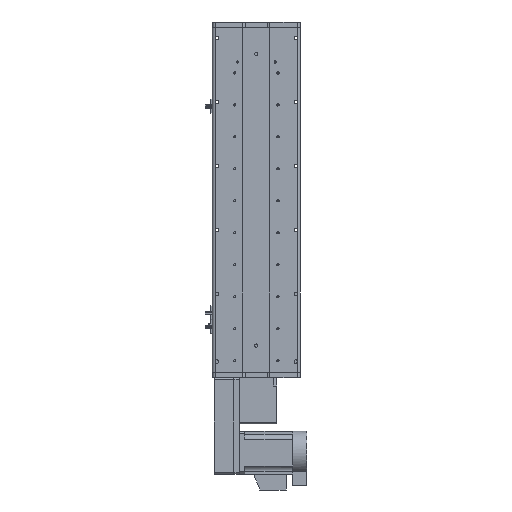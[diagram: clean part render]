
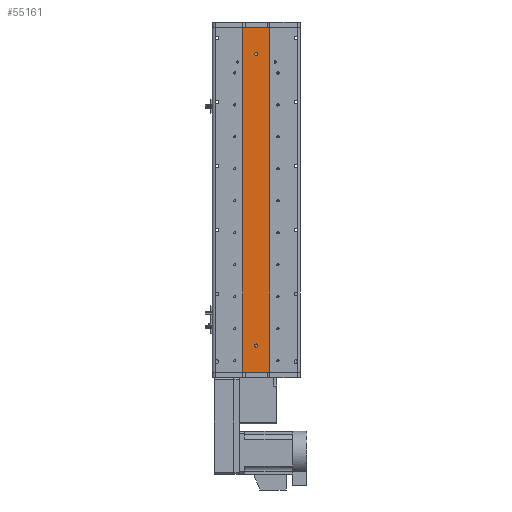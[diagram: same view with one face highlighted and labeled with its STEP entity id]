
A CAD part, front view. The second image highlights one B-rep face of the part: STEP entity #55161.
In plain terms, the highlighted planar face has unit normal (0, -1, 0).
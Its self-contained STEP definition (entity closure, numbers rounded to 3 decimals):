
#2698 = CARTESIAN_POINT ( 'NONE',  ( -25., 1., 323.5 ) ) ;
#2927 = CARTESIAN_POINT ( 'NONE',  ( 25., 1., 323.5 ) ) ;
#3366 = EDGE_LOOP ( 'NONE', ( #32657, #57847 ) ) ;
#3560 = DIRECTION ( 'NONE',  ( 0., 1., 0. ) ) ;
#3861 = EDGE_CURVE ( 'NONE', #30748, #12207, #56407, .T. ) ;
#4285 = VERTEX_POINT ( 'NONE', #40484 ) ;
#7483 = DIRECTION ( 'NONE',  ( 0., 0., -1. ) ) ;
#7684 = DIRECTION ( 'NONE',  ( 0., 0., -1. ) ) ;
#8374 = CIRCLE ( 'NONE', #11973, 3. ) ;
#8567 = VERTEX_POINT ( 'NONE', #23174 ) ;
#8765 = DIRECTION ( 'NONE',  ( 0., 1., 0. ) ) ;
#9132 = EDGE_CURVE ( 'NONE', #56772, #54491, #42624, .T. ) ;
#9157 = DIRECTION ( 'NONE',  ( 1., 0., 0. ) ) ;
#9539 = CARTESIAN_POINT ( 'NONE',  ( 25., 1., -323.5 ) ) ;
#10536 = DIRECTION ( 'NONE',  ( 0., 1., 0. ) ) ;
#11973 = AXIS2_PLACEMENT_3D ( 'NONE', #37251, #8765, #42020 ) ;
#12207 = VERTEX_POINT ( 'NONE', #58744 ) ;
#13156 = ORIENTED_EDGE ( 'NONE', *, *, #16549, .T. ) ;
#14039 = ORIENTED_EDGE ( 'NONE', *, *, #35085, .F. ) ;
#14374 = FACE_OUTER_BOUND ( 'NONE', #17201, .T. ) ;
#15092 = EDGE_CURVE ( 'NONE', #12207, #4285, #50897, .T. ) ;
#16090 = ORIENTED_EDGE ( 'NONE', *, *, #3861, .T. ) ;
#16126 = CARTESIAN_POINT ( 'NONE',  ( 0., 1., -273.5 ) ) ;
#16549 = EDGE_CURVE ( 'NONE', #54491, #56772, #17188, .T. ) ;
#17188 = CIRCLE ( 'NONE', #27511, 3. ) ;
#17201 = EDGE_LOOP ( 'NONE', ( #52286, #14039, #56546, #16090 ) ) ;
#18662 = DIRECTION ( 'NONE',  ( 0., 1., 0. ) ) ;
#19077 = DIRECTION ( 'NONE',  ( 1., 0., 0. ) ) ;
#19723 = CARTESIAN_POINT ( 'NONE',  ( 0., 1., 276.5 ) ) ;
#20936 = DIRECTION ( 'NONE',  ( 0., 0., 1. ) ) ;
#21290 = CARTESIAN_POINT ( 'NONE',  ( 0., 1., 270.5 ) ) ;
#22686 = LINE ( 'NONE', #28097, #46499 ) ;
#23174 = CARTESIAN_POINT ( 'NONE',  ( 0., 1., -276.5 ) ) ;
#24377 = CARTESIAN_POINT ( 'NONE',  ( 25., 1., 323.5 ) ) ;
#25618 = VECTOR ( 'NONE', #19077, 1000. ) ;
#26493 = VECTOR ( 'NONE', #7684, 1000. ) ;
#26929 = EDGE_CURVE ( 'NONE', #8567, #33550, #8374, .T. ) ;
#27511 = AXIS2_PLACEMENT_3D ( 'NONE', #32046, #3560, #36814 ) ;
#28097 = CARTESIAN_POINT ( 'NONE',  ( 25., 1., 323.5 ) ) ;
#28492 = AXIS2_PLACEMENT_3D ( 'NONE', #16126, #49435, #20936 ) ;
#29448 = PLANE ( 'NONE',  #30653 ) ;
#30653 = AXIS2_PLACEMENT_3D ( 'NONE', #34219, #10536, #43804 ) ;
#30748 = VERTEX_POINT ( 'NONE', #51129 ) ;
#31987 = CARTESIAN_POINT ( 'NONE',  ( 0., 1., -270.5 ) ) ;
#32046 = CARTESIAN_POINT ( 'NONE',  ( 0., 1., 273.5 ) ) ;
#32657 = ORIENTED_EDGE ( 'NONE', *, *, #26929, .T. ) ;
#33550 = VERTEX_POINT ( 'NONE', #31987 ) ;
#34219 = CARTESIAN_POINT ( 'NONE',  ( 25., 1., 323.5 ) ) ;
#35085 = EDGE_CURVE ( 'NONE', #54484, #4285, #51758, .T. ) ;
#36814 = DIRECTION ( 'NONE',  ( 0., 0., 1. ) ) ;
#37251 = CARTESIAN_POINT ( 'NONE',  ( 0., 1., -273.5 ) ) ;
#37958 = CIRCLE ( 'NONE', #28492, 3. ) ;
#39038 = EDGE_LOOP ( 'NONE', ( #43381, #13156 ) ) ;
#39716 = FACE_BOUND ( 'NONE', #39038, .T. ) ;
#40484 = CARTESIAN_POINT ( 'NONE',  ( 25., 1., -323.5 ) ) ;
#42020 = DIRECTION ( 'NONE',  ( 0., 0., 1. ) ) ;
#42268 = VECTOR ( 'NONE', #7483, 1000. ) ;
#42624 = CIRCLE ( 'NONE', #55002, 3. ) ;
#43381 = ORIENTED_EDGE ( 'NONE', *, *, #9132, .T. ) ;
#43804 = DIRECTION ( 'NONE',  ( 0., 0., 1. ) ) ;
#44747 = EDGE_CURVE ( 'NONE', #33550, #8567, #37958, .T. ) ;
#46499 = VECTOR ( 'NONE', #9157, 1000. ) ;
#47199 = CARTESIAN_POINT ( 'NONE',  ( 0., 1., 273.5 ) ) ;
#49435 = DIRECTION ( 'NONE',  ( 0., 1., 0. ) ) ;
#50866 = FACE_BOUND ( 'NONE', #3366, .T. ) ;
#50897 = LINE ( 'NONE', #9539, #25618 ) ;
#51129 = CARTESIAN_POINT ( 'NONE',  ( -25., 1., 323.5 ) ) ;
#51758 = LINE ( 'NONE', #2927, #26493 ) ;
#51989 = DIRECTION ( 'NONE',  ( 0., 0., 1. ) ) ;
#52286 = ORIENTED_EDGE ( 'NONE', *, *, #15092, .T. ) ;
#52777 = EDGE_CURVE ( 'NONE', #30748, #54484, #22686, .T. ) ;
#54484 = VERTEX_POINT ( 'NONE', #24377 ) ;
#54491 = VERTEX_POINT ( 'NONE', #19723 ) ;
#55002 = AXIS2_PLACEMENT_3D ( 'NONE', #47199, #18662, #51989 ) ;
#55161 = ADVANCED_FACE ( 'NONE', ( #50866, #39716, #14374 ), #29448, .F. ) ;
#56407 = LINE ( 'NONE', #2698, #42268 ) ;
#56546 = ORIENTED_EDGE ( 'NONE', *, *, #52777, .F. ) ;
#56772 = VERTEX_POINT ( 'NONE', #21290 ) ;
#57847 = ORIENTED_EDGE ( 'NONE', *, *, #44747, .T. ) ;
#58744 = CARTESIAN_POINT ( 'NONE',  ( -25., 1., -323.5 ) ) ;
